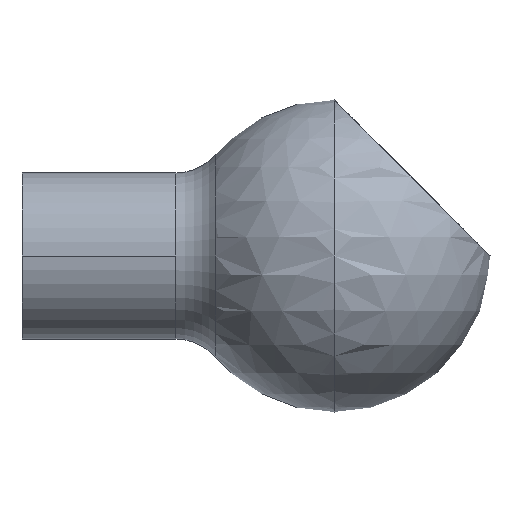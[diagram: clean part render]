
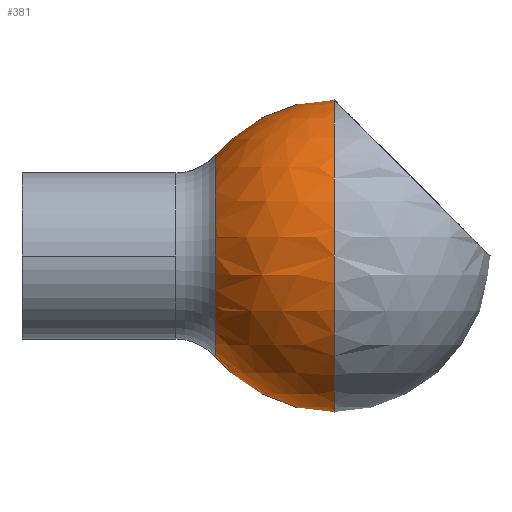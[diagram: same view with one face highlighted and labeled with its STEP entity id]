
A CAD part, left-side view. The second image highlights one B-rep face of the part: STEP entity #381.
In plain terms, the highlighted spherical face has radius 15 mm.
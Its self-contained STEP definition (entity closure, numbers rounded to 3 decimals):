
#157 = VERTEX_POINT( '', #432 );
#177 = EDGE_CURVE( '', #157, #195, #452, .T. );
#181 = VERTEX_POINT( '', #456 );
#195 = VERTEX_POINT( '', #472 );
#199 = EDGE_CURVE( '', #303, #181, #476, .T. );
#201 = VERTEX_POINT( '', #478 );
#241 = EDGE_CURVE( '', #201, #399, #520, .T. );
#263 = EDGE_CURVE( '', #389, #303, #548, .T. );
#295 = EDGE_CURVE( '', #195, #349, #584, .T. );
#303 = VERTEX_POINT( '', #594 );
#307 = EDGE_CURVE( '', #349, #389, #598, .T. );
#349 = VERTEX_POINT( '', #642 );
#359 = EDGE_CURVE( '', #181, #201, #654, .T. );
#363 = EDGE_CURVE( '', #399, #157, #658, .T. );
#381 = ADVANCED_FACE( '', ( #677 ), #678, .T. );
#389 = VERTEX_POINT( '', #688 );
#399 = VERTEX_POINT( '', #699 );
#432 = CARTESIAN_POINT( '', ( 0., -18.601, -9.75 ) );
#452 = CIRCLE( '', #753, 9.75 );
#456 = CARTESIAN_POINT( '', ( 0., -30., -15. ) );
#472 = CARTESIAN_POINT( '', ( 0., -18.601, 9.75 ) );
#476 = CIRCLE( '', #782, 15. );
#478 = CARTESIAN_POINT( '', ( 9., -30., -12. ) );
#520 = CIRCLE( '', #852, 12. );
#548 = CIRCLE( '', #883, 15. );
#584 = CIRCLE( '', #930, 9.75 );
#594 = CARTESIAN_POINT( '', ( 0., -30., 15. ) );
#598 = CIRCLE( '', #947, 12. );
#642 = CARTESIAN_POINT( '', ( 9., -18.601, 3.75 ) );
#654 = CIRCLE( '', #1025, 15. );
#658 = CIRCLE( '', #1032, 9.75 );
#677 = FACE_OUTER_BOUND( '', #1065, .T. );
#678 = SPHERICAL_SURFACE( '', #1066, 15. );
#688 = CARTESIAN_POINT( '', ( 9., -30., 12. ) );
#699 = CARTESIAN_POINT( '', ( 9., -18.601, -3.75 ) );
#753 = AXIS2_PLACEMENT_3D( '', #1134, #1135, #1136 );
#782 = AXIS2_PLACEMENT_3D( '', #1158, #1159, #1160 );
#852 = AXIS2_PLACEMENT_3D( '', #1196, #1197, #1198 );
#883 = AXIS2_PLACEMENT_3D( '', #1253, #1254, #1255 );
#930 = AXIS2_PLACEMENT_3D( '', #1310, #1311, #1312 );
#947 = AXIS2_PLACEMENT_3D( '', #1339, #1340, #1341 );
#1025 = AXIS2_PLACEMENT_3D( '', #1414, #1415, #1416 );
#1032 = AXIS2_PLACEMENT_3D( '', #1418, #1419, #1420 );
#1065 = EDGE_LOOP( '', ( #1437, #1438, #1439, #1440, #1441, #1442, #1443, #1444 ) );
#1066 = AXIS2_PLACEMENT_3D( '', #1445, #1446, #1447 );
#1134 = CARTESIAN_POINT( '', ( 0., -18.601, 0. ) );
#1135 = DIRECTION( '', ( 0., 1., 0. ) );
#1136 = DIRECTION( '', ( 0., 0., 1. ) );
#1158 = CARTESIAN_POINT( '', ( 0., -30., 0. ) );
#1159 = DIRECTION( '', ( 0., -1., 0. ) );
#1160 = DIRECTION( '', ( 0., 0., 1. ) );
#1196 = CARTESIAN_POINT( '', ( 9., -30., 0. ) );
#1197 = DIRECTION( '', ( 1., 0., 0. ) );
#1198 = DIRECTION( '', ( 0., 0., -1. ) );
#1253 = CARTESIAN_POINT( '', ( 0., -30., 0. ) );
#1254 = DIRECTION( '', ( 0., -1., 0. ) );
#1255 = DIRECTION( '', ( 0., 0., 1. ) );
#1310 = CARTESIAN_POINT( '', ( 0., -18.601, 0. ) );
#1311 = DIRECTION( '', ( 0., 1., 0. ) );
#1312 = DIRECTION( '', ( 0., 0., 1. ) );
#1339 = CARTESIAN_POINT( '', ( 9., -30., 0. ) );
#1340 = DIRECTION( '', ( 1., 0., 0. ) );
#1341 = DIRECTION( '', ( 0., 0., -1. ) );
#1414 = CARTESIAN_POINT( '', ( 0., -30., 0. ) );
#1415 = DIRECTION( '', ( 0., -1., 0. ) );
#1416 = DIRECTION( '', ( 0., 0., 1. ) );
#1418 = CARTESIAN_POINT( '', ( 0., -18.601, 0. ) );
#1419 = DIRECTION( '', ( 0., 1., 0. ) );
#1420 = DIRECTION( '', ( 0., 0., 1. ) );
#1437 = ORIENTED_EDGE( '', *, *, #199, .F. );
#1438 = ORIENTED_EDGE( '', *, *, #263, .F. );
#1439 = ORIENTED_EDGE( '', *, *, #307, .F. );
#1440 = ORIENTED_EDGE( '', *, *, #295, .F. );
#1441 = ORIENTED_EDGE( '', *, *, #177, .F. );
#1442 = ORIENTED_EDGE( '', *, *, #363, .F. );
#1443 = ORIENTED_EDGE( '', *, *, #241, .F. );
#1444 = ORIENTED_EDGE( '', *, *, #359, .F. );
#1445 = CARTESIAN_POINT( '', ( 0., -30., 0. ) );
#1446 = DIRECTION( '', ( 0., 0., 1. ) );
#1447 = DIRECTION( '', ( 1., 0., 0. ) );
